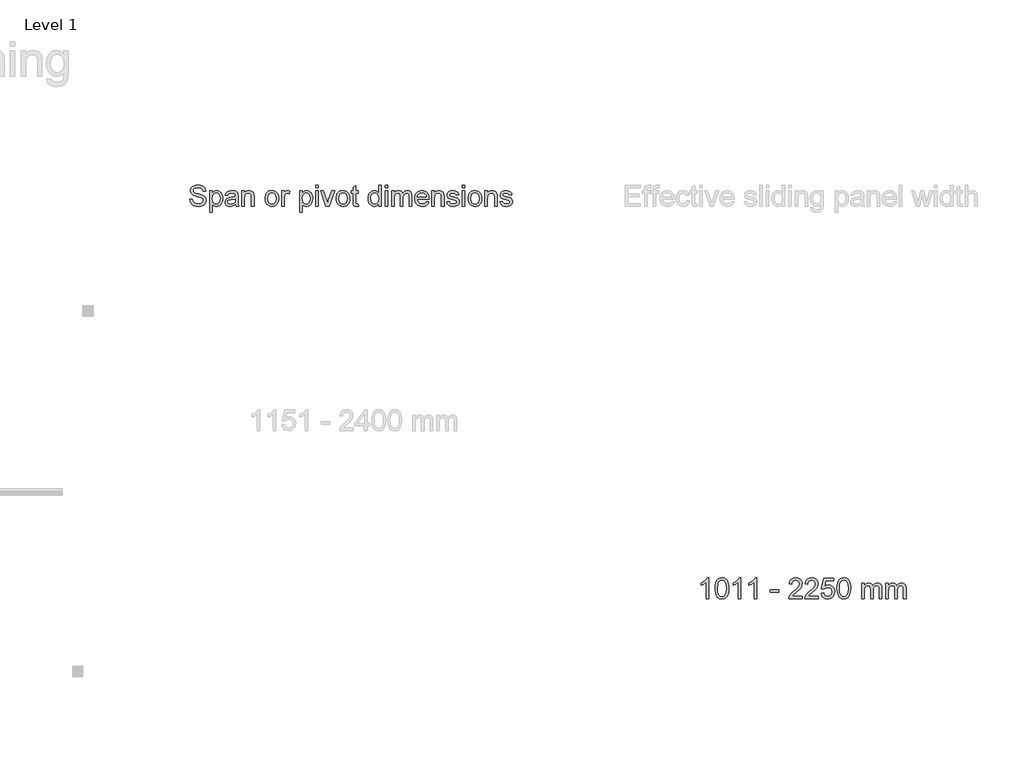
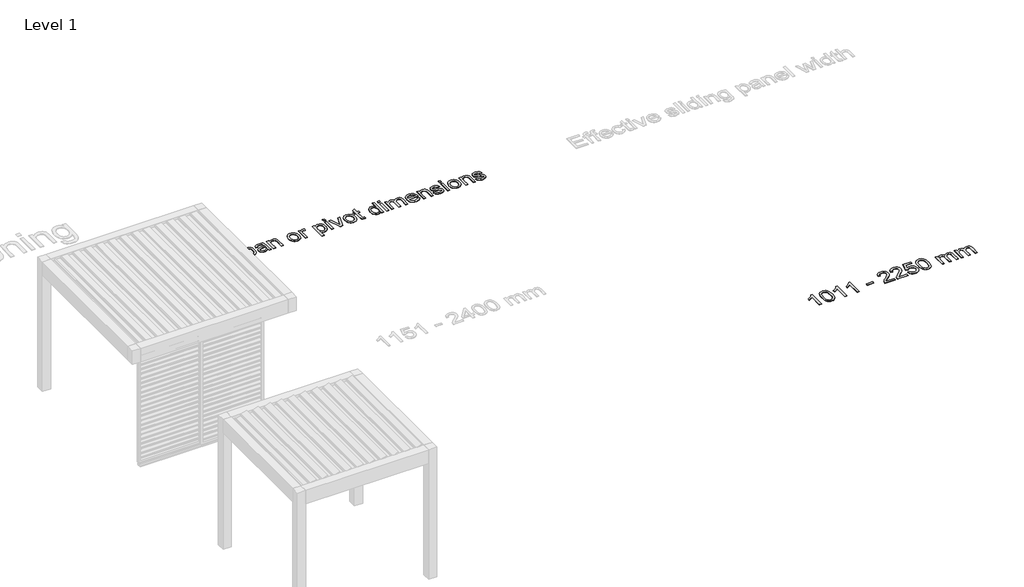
# One storey, part 38 of 69: 2 proxies.
"""IFC4 building model written with IfcOpenShell, lengths in millimetres."""

from ifc_helpers import new_model, si_unit, origin, origin_with_axes, place, context, project, spatial, polyline, outline, extrude, element, save

model = new_model("IFC4")

# Units and contexts
model_context = context("Model", 3, world=origin())
ifc_project = project(units=[si_unit("LENGTHUNIT", "METRE", prefix="MILLI")], contexts=[model_context])

# Site, building, storey
site = spatial("IfcSite", under=ifc_project)
building = spatial("IfcBuilding", under=site)
storey = spatial("IfcBuildingStorey", under=building, Name="Level 1", Elevation=0.0)

# Proxies
placement = place(None, origin())
element("IfcBuildingElementProxy", 1, Name="300mm Arial", ObjectType="300mm Arial", at=placement, inside=storey, context=model_context, shape_type="SweptSolid", body=[
    extrude(outline(polyline([(233342.3854967, -7046.26825), (233380.056613, -7046.26825), (233384.3792265, -7067.1731444), (233392.1967189, -7083.9761545), (233404.392007, -7097.3118768), (233421.8480077, -7107.8149078), (233443.1851634, -7114.6299217), (233467.0239167, -7116.9015931), (233488.0115845, -7115.1817447), (233506.3872902, -7110.0221998), (233521.2773139, -7101.8552195), (233531.807936, -7091.1130652), (233538.071127, -7078.7798213), (233540.1588573, -7065.8395721), (233538.5953588, -7053.2304167), (233533.9048634, -7042.3319126), (233524.3767197, -7033.0336952), (233508.3002765, -7025.2253999), (233453.4490711, -7010.8412139), (233417.4426208, -7001.3222672), (233394.4040108, -6992.2631731), (233375.6512261, -6979.5896384), (233362.361489, -6964.2305651), (233354.4428291, -6946.517047), (233351.8032758, -6926.780178), (233355.0682285, -6904.7164553), (233364.8630866, -6884.1426547), (233380.9303328, -6866.7050481), (233403.0124495, -6854.0499075), (233429.5183473, -6846.3519768), (233458.8569364, -6843.7859998), (233490.6419408, -6846.4715384), (233518.4538196, -6854.5281541), (233541.2992915, -6867.7903), (233558.1850751, -6886.0924293), (233568.872047, -6908.2941077), (233573.1210841, -6933.2549011), (233535.4499678, -6933.2549011), (233528.5337863, -6910.7773112), (233514.1128121, -6894.5537152), (233491.5800399, -6884.7312659), (233460.3284644, -6881.4571161), (233428.3411249, -6884.6944777), (233406.3969639, -6894.4065624), (233393.705035, -6908.6987779), (233389.4743921, -6925.676532), (233392.4726304, -6940.1526885), (233401.4673451, -6951.7961536), (233422.7309245, -6962.2072141), (233462.9772147, -6972.8390037), (233504.511092, -6982.9373645), (233529.6374323, -6991.7481383), (233551.1125437, -7005.4149544), (233566.094538, -7022.2823439), (233574.8961147, -7042.1663657), (233577.8299736, -7064.8830789), (233574.4546563, -7088.1056299), (233564.3287044, -7109.9486234), (233547.8659851, -7128.7473933), (233525.4803657, -7142.8372737), (233498.5606007, -7151.6388505), (233468.4954447, -7154.5727094), (233431.5876835, -7151.4089242), (233401.2098277, -7141.9175687), (233377.0123895, -7126.0618547), (233358.6458809, -7103.804994), (233346.855263, -7076.692091), (233342.3854967, -7046.26825)])), origin_with_axes(), (0.0, 0.0, 1.0), 5.0),
    extrude(outline(polyline([(233629.6277585, -7234.6238315), (233629.6277585, -6928.5460115), (233667.2988749, -6928.5460115), (233667.2988749, -6965.4813638), (233679.5861335, -6947.262008), (233693.3449201, -6934.2481825), (233709.3845751, -6926.4398871), (233728.5144388, -6923.837122), (233753.990267, -6927.4791537), (233776.2655218, -6938.405249), (233794.4021042, -6955.9532202), (233807.461915, -6979.4608797), (233815.3529838, -7007.2175762), (233817.9833401, -7037.5126585), (233815.012693, -7069.7299242), (233806.1007516, -7098.5442815), (233791.5326246, -7122.4933994), (233771.5934205, -7140.114947), (233748.3708695, -7150.9582688), (233723.9527021, -7154.5727094), (233706.6346572, -7152.1538852), (233691.1744163, -7144.8974129), (233677.9398616, -7133.9437265), (233667.2988749, -7120.4332602), (233667.2988749, -7234.6238315), (233629.6277585, -7234.6238315)]), holes=[polyline([(233667.2988749, -7040.9707493), (233671.3731679, -7074.7423164), (233683.5960472, -7098.3603405), (233701.6314621, -7112.2662799), (233723.1433617, -7116.9015931), (233745.0047493, -7112.100733), (233763.5000166, -7097.6981529), (233776.109172, -7073.2156061), (233780.3122238, -7038.1748461), (233776.2103395, -7004.5872199), (233763.9046868, -6980.638102), (233745.8968631, -6966.2907042), (233724.6884661, -6961.5082383), (233703.3972956, -6966.5942069), (233684.6996932, -6981.8521126), (233671.6490794, -7006.803709), (233667.2988749, -7040.9707493)])]), origin_with_axes(), (0.0, 0.0, 1.0), 5.0),
    extrude(outline(polyline([(234001.6300321, -7121.6104826), (233983.6314055, -7137.0431323), (233965.0993499, -7147.1414931), (233945.6108013, -7152.7149053), (233924.7426951, -7154.5727094), (233893.2611933, -7150.1029431), (233870.0386424, -7136.6936444), (233855.7188357, -7116.331376), (233850.9455668, -7091.0027006), (233852.7481886, -7075.3861099), (233858.1560539, -7061.204259), (233866.4977782, -7049.0641531), (233877.1019767, -7039.5727977), (233903.4791158, -7027.2119626), (233936.0734605, -7021.5465799), (233974.5907054, -7015.5868916), (234001.4093029, -7008.5971337), (234001.6300321, -7000.2094242), (233999.036464, -6983.397217), (233991.2557598, -6972.3975454), (233973.8549414, -6964.2305651), (233949.6115179, -6961.5082383), (233927.1707162, -6963.3200571), (233911.4989432, -6968.7555136), (233900.8119713, -6978.8078891), (233893.3255727, -6994.4704651), (233855.6544564, -6989.7615755), (233862.1935588, -6969.1601838), (233871.9516288, -6952.973376), (233885.8391741, -6940.5941469), (233904.7667027, -6931.4154911), (233927.9156773, -6925.7317143), (233954.4675603, -6923.837122), (233979.9341914, -6925.5109851), (234000.1217159, -6930.5325743), (234015.3428334, -6938.0833523), (234025.9102437, -6947.3447815), (234032.9183958, -6958.7951086), (234037.4617384, -6972.9125801), (234039.3011484, -7005.8748069), (234039.3011484, -7052.7429731), (234041.2141347, -7118.18918), (234048.7189274, -7149.8638198), (234011.0478111, -7149.8638198), (234001.6300321, -7121.6104826)]), holes=[polyline([(234001.6300321, -7046.26825), (233940.8559265, -7057.8197446), (233908.4455227, -7063.9265858), (233893.7670311, -7073.8593996), (233888.6166831, -7088.3539502), (233891.4217834, -7099.555957), (233899.837084, -7108.7346128), (233913.6786441, -7114.859848), (233932.7625226, -7116.9015931), (233952.9960323, -7114.6483158), (233970.8750973, -7107.8884842), (233985.3696479, -7097.9280792), (233995.4496145, -7086.0730819), (233999.9193808, -7073.8593996), (234001.4093029, -7056.9368278), (234001.6300321, -7046.26825)])]), origin_with_axes(), (0.0, 0.0, 1.0), 5.0),
    extrude(outline(polyline([(234091.0989333, -7149.8638198), (234091.0989333, -6928.5460115), (234128.7700496, -6928.5460115), (234128.7700496, -6959.4480991), (234141.8574516, -6943.8682966), (234157.5752098, -6932.7398663), (234175.9233243, -6926.0628081), (234196.9017951, -6923.837122), (234215.4706388, -6925.6305467), (234232.475984, -6931.0108209), (234246.657835, -6939.3065599), (234256.7561957, -6949.8463791), (234268.050173, -6977.5478933), (234270.0367357, -7013.9682108), (234270.0367357, -7149.8638198), (234232.3656194, -7149.8638198), (234232.3656194, -7019.0449823), (234228.0246119, -6985.7148736), (234222.0189383, -6975.7912568), (234212.6839327, -6968.093326), (234200.7185708, -6963.1545102), (234186.8218284, -6961.5082383), (234164.7581058, -6965.2054523), (234145.9501388, -6976.2970945), (234138.4338498, -6985.3515901), (234133.0650719, -6997.7262207), (234128.7700496, -7032.435887), (234128.7700496, -7149.8638198), (234091.0989333, -7149.8638198)])), origin_with_axes(), (0.0, 0.0, 1.0), 5.0),
    extrude(outline(polyline([(234430.13898, -7039.2049157), (234432.1761266, -7010.5423097), (234438.2875662, -6985.8436323), (234448.473299, -6965.1088833), (234462.7333248, -6948.3380629), (234477.0899197, -6937.6189012), (234492.9364366, -6929.9623572), (234510.2728756, -6925.3684308), (234529.0992368, -6923.837122), (234549.8822702, -6925.7018239), (234568.6741424, -6931.2959294), (234585.4748532, -6940.6194388), (234600.2844028, -6953.6723518), (234612.3716256, -6970.0132102), (234621.0053562, -6989.2005555), (234626.1855945, -7011.2343877), (234627.9123407, -7036.1147069), (234624.8589201, -7074.1720993), (234615.6986584, -7103.1428064), (234600.6982701, -7124.8386471), (234580.1244695, -7141.0714401), (234555.687908, -7151.1973921), (234529.0992368, -7154.5727094), (234508.0127006, -7152.7149053), (234489.0460845, -7147.1414931), (234472.1993884, -7137.8524727), (234457.4726123, -7124.8478442), (234445.5141482, -7108.3483367), (234436.9723881, -7088.5746794), (234431.8473321, -7065.5268724), (234430.13898, -7039.2049157)]), holes=[polyline([(234467.8100964, -7039.1313393), (234472.169498, -7073.2248032), (234485.2477029, -7097.5142119), (234504.9293897, -7112.0547478), (234529.0992368, -7116.9015931), (234553.1587192, -7112.0271566), (234572.8036178, -7097.4038473), (234585.8818227, -7072.7925418), (234590.2412243, -7037.9541169), (234585.8542316, -7004.8539344), (234572.6932532, -6980.8956194), (234553.0207635, -6966.3550836), (234529.0992368, -6961.5082383), (234504.9293897, -6966.3366895), (234485.2477029, -6980.822043), (234472.169498, -7005.0562695), (234467.8100964, -7039.1313393)])]), origin_with_axes(), (0.0, 0.0, 1.0), 5.0),
    extrude(outline(polyline([(234670.2923465, -7149.8638198), (234670.2923465, -6928.5460115), (234703.2545733, -6928.5460115), (234703.2545733, -6961.2875091), (234715.4314673, -6942.3047981), (234726.6518682, -6931.1211855), (234737.9090572, -6925.6581379), (234750.1963159, -6923.837122), (234768.9582976, -6926.7433898), (234788.014585, -6935.462193), (234775.4330207, -6969.2337602), (234762.1892689, -6963.4396188), (234748.9455171, -6961.5082383), (234737.6975251, -6963.3660424), (234727.6451495, -6968.9394546), (234719.5241545, -6977.8054107), (234714.0703039, -6989.5408463), (234709.4901731, -7010.5836965), (234707.9634628, -7033.539533), (234707.9634628, -7149.8638198), (234670.2923465, -7149.8638198)])), origin_with_axes(), (0.0, 0.0, 1.0), 5.0),
    extrude(outline(polyline([(234929.2812711, -7234.6238315), (234929.2812711, -6928.5460115), (234966.9523874, -6928.5460115), (234966.9523874, -6965.4813638), (234979.239646, -6947.262008), (234992.9984327, -6934.2481825), (235009.0380877, -6926.4398871), (235028.1679514, -6923.837122), (235053.6437796, -6927.4791537), (235075.9190344, -6938.405249), (235094.0556167, -6955.9532202), (235107.1154276, -6979.4608797), (235115.0064964, -7007.2175762), (235117.6368526, -7037.5126585), (235114.6662055, -7069.7299242), (235105.7542642, -7098.5442815), (235091.1861372, -7122.4933994), (235071.246933, -7140.114947), (235048.0243821, -7150.9582688), (235023.6062147, -7154.5727094), (235006.2881697, -7152.1538852), (234990.8279289, -7144.8974129), (234977.5933741, -7133.9437265), (234966.9523874, -7120.4332602), (234966.9523874, -7234.6238315), (234929.2812711, -7234.6238315)]), holes=[polyline([(234966.9523874, -7040.9707493), (234971.0266805, -7074.7423164), (234983.2495598, -7098.3603405), (235001.2849746, -7112.2662799), (235022.7968743, -7116.9015931), (235044.6582618, -7112.100733), (235063.1535291, -7097.6981529), (235075.7626845, -7073.2156061), (235079.9657363, -7038.1748461), (235075.8638521, -7004.5872199), (235063.5581993, -6980.638102), (235045.5503757, -6966.2907042), (235024.3419787, -6961.5082383), (235003.0508082, -6966.5942069), (234984.3532058, -6981.8521126), (234971.302592, -7006.803709), (234966.9523874, -7040.9707493)])]), origin_with_axes(), (0.0, 0.0, 1.0), 5.0),
    extrude(outline(polyline([(235160.0168585, -6886.1660057), (235160.0168585, -6848.4948894), (235197.6879748, -6848.4948894), (235197.6879748, -6886.1660057), (235160.0168585, -6886.1660057)])), origin_with_axes(), (0.0, 0.0, 1.0), 5.0),
    extrude(outline(polyline([(235160.0168585, -7149.8638198), (235160.0168585, -6928.5460115), (235197.6879748, -6928.5460115), (235197.6879748, -7149.8638198), (235160.0168585, -7149.8638198)])), origin_with_axes(), (0.0, 0.0, 1.0), 5.0),
    extrude(outline(polyline([(235308.4940317, -7149.8638198), (235230.6502016, -6928.5460115), (235270.5286098, -6928.5460115), (235317.6910816, -7061.1306826), (235331.8913266, -7105.7179804), (235345.797266, -7063.6322802), (235393.2540434, -6928.5460115), (235433.1324517, -6928.5460115), (235356.2451147, -7149.8638198), (235308.4940317, -7149.8638198)])), origin_with_axes(), (0.0, 0.0, 1.0), 5.0),
    extrude(outline(polyline([(235456.6768994, -7039.2049157), (235458.7140459, -7010.5423097), (235464.8254856, -6985.8436323), (235475.0112183, -6965.1088833), (235489.2712442, -6948.3380629), (235503.627839, -6937.6189012), (235519.474356, -6929.9623572), (235536.810795, -6925.3684308), (235555.6371561, -6923.837122), (235576.4201896, -6925.7018239), (235595.2120617, -6931.2959294), (235612.0127726, -6940.6194388), (235626.8223222, -6953.6723518), (235638.909545, -6970.0132102), (235647.5432755, -6989.2005555), (235652.7235139, -7011.2343877), (235654.45026, -7036.1147069), (235651.3968394, -7074.1720993), (235642.2365778, -7103.1428064), (235627.2361894, -7124.8386471), (235606.6623888, -7141.0714401), (235582.2258273, -7151.1973921), (235555.6371561, -7154.5727094), (235534.55062, -7152.7149053), (235515.5840039, -7147.1414931), (235498.7373078, -7137.8524727), (235484.0105316, -7124.8478442), (235472.0520675, -7108.3483367), (235463.5103075, -7088.5746794), (235458.3852514, -7065.5268724), (235456.6768994, -7039.2049157)]), holes=[polyline([(235494.3480157, -7039.1313393), (235498.7074173, -7073.2248032), (235511.7856223, -7097.5142119), (235531.467309, -7112.0547478), (235555.6371561, -7116.9015931), (235579.6966386, -7112.0271566), (235599.3415371, -7097.4038473), (235612.419742, -7072.7925418), (235616.7791437, -7037.9541169), (235612.3921509, -7004.8539344), (235599.2311725, -6980.8956194), (235579.5586828, -6966.3550836), (235555.6371561, -6961.5082383), (235531.467309, -6966.3366895), (235511.7856223, -6980.822043), (235498.7074173, -7005.0562695), (235494.3480157, -7039.1313393)])]), origin_with_axes(), (0.0, 0.0, 1.0), 5.0),
    extrude(outline(polyline([(235776.881388, -7118.4466974), (235781.5902775, -7150.9674658), (235753.4105167, -7154.5727094), (235735.3291166, -7153.0092109), (235721.8462415, -7148.3187154), (235712.3180978, -7141.0898342), (235706.1008921, -7131.9111785), (235702.6795896, -7116.147435), (235701.5391554, -7089.1632906), (235701.5391554, -6966.2171278), (235673.2858182, -6966.2171278), (235673.2858182, -6928.5460115), (235701.5391554, -6928.5460115), (235701.5391554, -6874.7616638), (235739.2102717, -6852.6151677), (235739.2102717, -6928.5460115), (235776.881388, -6928.5460115), (235776.881388, -6966.2171278), (235739.2102717, -6966.2171278), (235739.2102717, -7088.0596446), (235741.1968345, -7107.483814), (235747.6347694, -7114.3632073), (235760.473851, -7116.9015931), (235776.881388, -7118.4466974)])), origin_with_axes(), (0.0, 0.0, 1.0), 5.0),
    extrude(outline(polyline([(236068.8325394, -7149.8638198), (236068.8325394, -7114.3264191), (236057.5615547, -7131.9341711), (236043.9085342, -7144.5111368), (236027.8734777, -7152.0573162), (236009.4563853, -7154.5727094), (235985.1025973, -7150.9306776), (235962.8089484, -7140.0045824), (235943.936602, -7122.5577787), (235929.8467216, -7099.3536219), (235921.072736, -7071.3302109), (235918.1480741, -7039.4256449), (235920.8428098, -7007.916552), (235928.9270166, -6979.4608797), (235942.3914976, -6955.6773087), (235961.2270558, -6938.1845198), (235984.0081483, -6927.4239714), (236009.3092325, -6923.837122), (236027.7401205, -6926.4030989), (236044.0372929, -6934.1010297), (236057.8512618, -6945.9008447), (236068.8325394, -6960.7724743), (236068.8325394, -6848.4948894), (236106.5036557, -6848.4948894), (236106.5036557, -7149.8638198), (236068.8325394, -7149.8638198)]), holes=[polyline([(235955.8191904, -7039.2784921), (235960.0682275, -7073.3535619), (235972.8153386, -7097.5877883), (235991.3381971, -7112.0731419), (236012.9144761, -7116.9015931), (236034.4815581, -7112.2938711), (236052.535367, -7098.4707051), (236064.7582463, -7075.1745778), (236068.8325394, -7042.1479716), (236064.6846699, -7006.0403538), (236052.2410614, -6981.005984), (236033.7274, -6966.3826747), (236011.3693717, -6961.5082383), (235989.5723635, -6966.1895367), (235971.7116926, -6980.2334319), (235959.792316, -7004.3572937), (235955.8191904, -7039.2784921)])]), origin_with_axes(), (0.0, 0.0, 1.0), 5.0),
    extrude(outline(polyline([(236163.0103301, -6886.1660057), (236163.0103301, -6848.4948894), (236200.6814464, -6848.4948894), (236200.6814464, -6886.1660057), (236163.0103301, -6886.1660057)])), origin_with_axes(), (0.0, 0.0, 1.0), 5.0),
    extrude(outline(polyline([(236163.0103301, -7149.8638198), (236163.0103301, -6928.5460115), (236200.6814464, -6928.5460115), (236200.6814464, -7149.8638198), (236163.0103301, -7149.8638198)])), origin_with_axes(), (0.0, 0.0, 1.0), 5.0),
    extrude(outline(polyline([(236257.1881209, -7149.8638198), (236257.1881209, -6928.5460115), (236294.8592372, -6928.5460115), (236294.8592372, -6964.9663291), (236306.1900027, -6948.2368953), (236320.7581297, -6935.1310992), (236338.0669775, -6926.6606163), (236357.6199056, -6923.837122), (236378.5707852, -6926.7157986), (236395.3645983, -6935.3518284), (236407.9093743, -6949.1749944), (236416.1131428, -6967.6150794), (236429.8443383, -6948.462223), (236445.5069142, -6934.7816113), (236463.1008706, -6926.5732443), (236482.6262075, -6923.837122), (236510.9439241, -6928.3896617), (236531.8856067, -6942.0472808), (236544.8258559, -6965.1778612), (236549.1392723, -6998.149285), (236549.1392723, -7149.8638198), (236511.468156, -7149.8638198), (236511.468156, -7014.3360928), (236507.973277, -6982.8821822), (236503.0620524, -6974.2093642), (236495.3181364, -6967.3943502), (236485.3577314, -6962.9797663), (236473.7970397, -6961.5082383), (236453.388786, -6965.2790287), (236436.7513227, -6976.5914001), (236425.6872717, -6996.2179045), (236421.9992547, -7024.9310943), (236421.9992547, -7149.8638198), (236384.3281384, -7149.8638198), (236384.3281384, -7010.1422381), (236382.1484376, -6988.8418705), (236375.6093351, -6973.6483441), (236364.1038257, -6964.5432648), (236347.0249041, -6961.5082383), (236332.5119594, -6963.5315893), (236319.1394489, -6969.6016422), (236308.102989, -6979.5712443), (236300.5981963, -6993.2932427), (236296.293977, -7012.3311359), (236294.8592372, -7038.2484225), (236294.8592372, -7149.8638198), (236257.1881209, -7149.8638198)])), origin_with_axes(), (0.0, 0.0, 1.0), 5.0),
    extrude(outline(polyline([(236760.5978431, -7083.9393663), (236797.5331954, -7088.6482558), (236784.2250642, -7116.4785288), (236762.9890761, -7137.2822556), (236734.3034775, -7150.2500959), (236698.6465151, -7154.5727094), (236675.2722128, -7152.7080075), (236654.4454934, -7147.1139019), (236636.1663568, -7137.7903926), (236620.4348029, -7124.7374796), (236607.7842608, -7108.3184463), (236598.7481593, -7088.8965762), (236593.3264984, -7066.4718693), (236591.5192781, -7041.0443257), (236593.3448925, -7014.7545586), (236598.8217357, -6991.5825914), (236607.9498077, -6971.5284241), (236620.7291085, -6954.5920568), (236636.4192756, -6941.1367728), (236654.2799465, -6931.5258557), (236674.3111211, -6925.7593054), (236696.5127995, -6923.837122), (236717.9994073, -6925.7547069), (236737.4304744, -6931.5074616), (236754.8060009, -6941.0953861), (236770.1259868, -6954.5184804), (236782.6316753, -6971.4180595), (236791.56431, -6991.4354386), (236796.9238909, -7014.5706176), (236798.7104178, -7040.8235965), (236798.4896886, -7050.9771395), (236629.1903944, -7050.9771395), (236635.7111028, -7079.1752945), (236650.8586439, -7099.9054449), (236672.7200315, -7112.652556), (236699.3822791, -7116.9015931), (236719.4318478, -7114.9334244), (236736.3176314, -7109.0289184), (236750.0396298, -7098.820193), (236760.5978431, -7083.9393663)]), holes=[polyline([(236629.1903944, -7013.3060232), (236761.0393015, -7013.3060232), (236755.9441359, -6993.4036073), (236745.9561397, -6979.1665741), (236723.9935846, -6965.9228222), (236696.3656467, -6961.5082383), (236670.972592, -6965.0307084), (236649.9757271, -6975.5981187), (236635.380009, -6992.070035), (236629.1903944, -7013.3060232)])]), origin_with_axes(), (0.0, 0.0, 1.0), 5.0),
    extrude(outline(polyline([(236836.3815341, -7149.8638198), (236836.3815341, -6928.5460115), (236874.0526504, -6928.5460115), (236874.0526504, -6959.4480991), (236887.1400524, -6943.8682966), (236902.8578106, -6932.7398663), (236921.2059251, -6926.0628081), (236942.1843959, -6923.837122), (236960.7532396, -6925.6305467), (236977.7585848, -6931.0108209), (236991.9404358, -6939.3065599), (237002.0387965, -6949.8463791), (237013.3327738, -6977.5478933), (237015.3193366, -7013.9682108), (237015.3193366, -7149.8638198), (236977.6482202, -7149.8638198), (236977.6482202, -7019.0449823), (236973.3072127, -6985.7148736), (236967.3015391, -6975.7912568), (236957.9665335, -6968.093326), (236946.0011716, -6963.1545102), (236932.1044292, -6961.5082383), (236910.0407066, -6965.2054523), (236891.2327396, -6976.2970945), (236883.7164506, -6985.3515901), (236878.3476727, -6997.7262207), (236874.0526504, -7032.435887), (236874.0526504, -7149.8638198), (236836.3815341, -7149.8638198)])), origin_with_axes(), (0.0, 0.0, 1.0), 5.0),
    extrude(outline(polyline([(237052.9904529, -7083.9393663), (237090.6615692, -7079.2304768), (237096.6028634, -7095.3437081), (237108.0991757, -7107.1895084), (237125.2240826, -7114.4735719), (237148.0511604, -7116.9015931), (237170.6023267, -7114.675907), (237186.4580407, -7107.9988488), (237195.8390316, -7098.3235523), (237198.9660285, -7087.1031515), (237195.8206375, -7077.5014314), (237186.3844643, -7070.1805797), (237147.609702, -7059.4384254), (237090.8822984, -7041.0075375), (237076.5257035, -7031.7461082), (237066.1238401, -7019.4864407), (237059.8054668, -7005.0102842), (237057.6993424, -6989.0993879), (237059.3915996, -6974.5036698), (237064.4683711, -6961.0299917), (237072.4698045, -6949.2117826), (237082.9360473, -6939.5824714), (237106.8851652, -6928.4356469), (237139.2955689, -6923.837122), (237163.8149039, -6925.685729), (237185.1336655, -6931.2315501), (237202.2769665, -6939.9319593), (237214.2699195, -6951.2443306), (237222.2161706, -6966.0055957), (237227.2193658, -6985.052686), (237189.5482495, -6989.7615755), (237184.7933747, -6977.9065782), (237175.3847927, -6968.9762428), (237161.2305329, -6963.3752394), (237142.2386249, -6961.5082383), (237120.6071636, -6963.292466), (237106.1861894, -6968.645149), (237098.0743914, -6976.3706709), (237095.3704587, -6985.2734152), (237099.858619, -6996.2362986), (237113.9117113, -7004.5504317), (237146.3589032, -7012.5702592), (237201.6515671, -7030.3021714), (237216.2564823, -7038.7818514), (237227.3297304, -7050.3885283), (237234.3102912, -7065.1589904), (237236.6371449, -7083.1300259), (237233.905621, -7101.7080667), (237225.7110496, -7119.1824614), (237212.3661302, -7134.1828498), (237194.1835626, -7145.3388713), (237172.2210075, -7152.2642498), (237147.5361256, -7154.5727094), (237109.5523096, -7150.1213372), (237081.8324013, -7136.7672208), (237063.3279369, -7114.6575129), (237052.9904529, -7083.9393663)])), origin_with_axes(), (0.0, 0.0, 1.0), 5.0),
    extrude(outline(polyline([(237279.0171507, -7149.8638198), (237279.0171507, -6928.5460115), (237316.688267, -6928.5460115), (237316.688267, -7149.8638198), (237279.0171507, -7149.8638198)])), origin_with_axes(), (0.0, 0.0, 1.0), 5.0),
    extrude(outline(polyline([(237279.0171507, -6886.1660057), (237279.0171507, -6848.4948894), (237316.688267, -6848.4948894), (237316.688267, -6886.1660057), (237279.0171507, -6886.1660057)])), origin_with_axes(), (0.0, 0.0, 1.0), 5.0),
    extrude(outline(polyline([(237363.7771624, -7039.2049157), (237365.8143089, -7010.5423097), (237371.9257486, -6985.8436323), (237382.1114813, -6965.1088833), (237396.3715072, -6948.3380629), (237410.728102, -6937.6189012), (237426.574619, -6929.9623572), (237443.911058, -6925.3684308), (237462.7374191, -6923.837122), (237483.5204526, -6925.7018239), (237502.3123247, -6931.2959294), (237519.1130356, -6940.6194388), (237533.9225852, -6953.6723518), (237546.009808, -6970.0132102), (237554.6435385, -6989.2005555), (237559.8237769, -7011.2343877), (237561.550523, -7036.1147069), (237558.4971024, -7074.1720993), (237549.3368408, -7103.1428064), (237534.3364524, -7124.8386471), (237513.7626518, -7141.0714401), (237489.3260903, -7151.1973921), (237462.7374191, -7154.5727094), (237441.650883, -7152.7149053), (237422.6842669, -7147.1414931), (237405.8375707, -7137.8524727), (237391.1107946, -7124.8478442), (237379.1523305, -7108.3483367), (237370.6105704, -7088.5746794), (237365.4855144, -7065.5268724), (237363.7771624, -7039.2049157)]), holes=[polyline([(237401.4482787, -7039.1313393), (237405.8076803, -7073.2248032), (237418.8858853, -7097.5142119), (237438.567572, -7112.0547478), (237462.7374191, -7116.9015931), (237486.7969016, -7112.0271566), (237506.4418001, -7097.4038473), (237519.520005, -7072.7925418), (237523.8794067, -7037.9541169), (237519.4924139, -7004.8539344), (237506.3314355, -6980.8956194), (237486.6589458, -6966.3550836), (237462.7374191, -6961.5082383), (237438.567572, -6966.3366895), (237418.8858853, -6980.822043), (237405.8076803, -7005.0562695), (237401.4482787, -7039.1313393)])]), origin_with_axes(), (0.0, 0.0, 1.0), 5.0),
    extrude(outline(polyline([(237603.9305288, -7149.8638198), (237603.9305288, -6928.5460115), (237641.6016451, -6928.5460115), (237641.6016451, -6959.4480991), (237654.6890471, -6943.8682966), (237670.4068054, -6932.7398663), (237688.7549199, -6926.0628081), (237709.7333907, -6923.837122), (237728.3022344, -6925.6305467), (237745.3075796, -6931.0108209), (237759.4894305, -6939.3065599), (237769.5877913, -6949.8463791), (237780.8817685, -6977.5478933), (237782.8683313, -7013.9682108), (237782.8683313, -7149.8638198), (237745.197215, -7149.8638198), (237745.197215, -7019.0449823), (237740.8562074, -6985.7148736), (237734.8505339, -6975.7912568), (237725.5155282, -6968.093326), (237713.5501664, -6963.1545102), (237699.653424, -6961.5082383), (237677.5897013, -6965.2054523), (237658.7817343, -6976.2970945), (237651.2654453, -6985.3515901), (237645.8966674, -6997.7262207), (237641.6016451, -7032.435887), (237641.6016451, -7149.8638198), (237603.9305288, -7149.8638198)])), origin_with_axes(), (0.0, 0.0, 1.0), 5.0),
    extrude(outline(polyline([(237820.5394476, -7083.9393663), (237858.2105639, -7079.2304768), (237864.1518581, -7095.3437081), (237875.6481705, -7107.1895084), (237892.7730774, -7114.4735719), (237915.6001552, -7116.9015931), (237938.1513215, -7114.675907), (237954.0070354, -7107.9988488), (237963.3880263, -7098.3235523), (237966.5150233, -7087.1031515), (237963.3696322, -7077.5014314), (237953.933459, -7070.1805797), (237915.1586968, -7059.4384254), (237858.4312931, -7041.0075375), (237844.0746982, -7031.7461082), (237833.6728348, -7019.4864407), (237827.3544616, -7005.0102842), (237825.2483371, -6989.0993879), (237826.9405943, -6974.5036698), (237832.0173658, -6961.0299917), (237840.0187992, -6949.2117826), (237850.485042, -6939.5824714), (237874.4341599, -6928.4356469), (237906.8445637, -6923.837122), (237931.3638986, -6925.685729), (237952.6826603, -6931.2315501), (237969.8259612, -6939.9319593), (237981.8189143, -6951.2443306), (237989.7651654, -6966.0055957), (237994.7683605, -6985.052686), (237957.0972442, -6989.7615755), (237952.3423694, -6977.9065782), (237942.9337874, -6968.9762428), (237928.7795276, -6963.3752394), (237909.7876196, -6961.5082383), (237888.1561583, -6963.292466), (237873.7351841, -6968.645149), (237865.6233861, -6976.3706709), (237862.9194534, -6985.2734152), (237867.4076138, -6996.2362986), (237881.460706, -7004.5504317), (237913.907898, -7012.5702592), (237969.2005618, -7030.3021714), (237983.8054771, -7038.7818514), (237994.8787251, -7050.3885283), (238001.859286, -7065.1589904), (238004.1861396, -7083.1300259), (238001.4546158, -7101.7080667), (237993.2600443, -7119.1824614), (237979.915125, -7134.1828498), (237961.7325573, -7145.3388713), (237939.7700022, -7152.2642498), (237915.0851204, -7154.5727094), (237877.1013044, -7150.1213372), (237849.381396, -7136.7672208), (237830.8769317, -7114.6575129), (237820.5394476, -7083.9393663)])), origin_with_axes(), (0.0, 0.0, 1.0), 5.0),
])
element("IfcBuildingElementProxy", 2, Name="300mm Arial", ObjectType="300mm Arial", at=placement, inside=storey, context=model_context, shape_type="SweptSolid", body=[
    extrude(outline(polyline([(240841.0703661, -12819.8212305), (240803.3992498, -12819.8212305), (240803.3992498, -12584.9653647), (240767.7146963, -12610.3860106), (240728.0570172, -12629.4055098), (240728.0570172, -12593.7945326), (240757.6439267, -12577.6996953), (240783.2761047, -12558.5514375), (240803.4820233, -12538.1891691), (240816.7901544, -12518.4523), (240841.0703661, -12518.4523), (240841.0703661, -12819.8212305)])), origin_with_axes(), (0.0, 0.0, 1.0), 5.0),
    extrude(outline(polyline([(240930.5392674, -12671.5647864), (240933.3075794, -12623.3262598), (240941.6125154, -12584.8550002), (240955.371302, -12555.5623963), (240974.5011658, -12534.859837), (240999.1400624, -12522.5541843), (241029.4259477, -12518.4523), (241052.6393016, -12520.8803212), (241073.4246343, -12528.1643847), (241090.8070586, -12540.019382), (241103.8116871, -12556.1602045), (241113.6341364, -12576.4488966), (241121.4700229, -12600.7475023), (241126.6019767, -12631.6036047), (241128.312628, -12671.5647864), (241125.5719071, -12719.5274015), (241117.3497445, -12757.9066907), (241103.6737313, -12787.2268857), (241084.5714587, -12808.0122184), (241059.8773798, -12820.4006446), (241029.4259477, -12824.53012), (241008.6774031, -12822.7366953), (240990.2833034, -12817.3564211), (240974.2436484, -12808.3892975), (240960.5584382, -12795.8353244), (240947.4250509, -12773.1416038), (240938.0440601, -12744.865274), (240932.4154655, -12711.0063348), (240930.5392674, -12671.5647864)]), holes=[polyline([(240968.2103837, -12671.49121), (240972.6249676, -12730.7478024), (240978.1431975, -12751.0158011), (240985.8687194, -12765.0436014), (241005.5871944, -12781.4051531), (241029.4259477, -12786.8590037), (241053.2647009, -12781.386759), (241072.9831759, -12764.970025), (241080.7086978, -12750.919232), (241086.2269277, -12730.6558319), (241090.6415117, -12671.49121), (241086.3740805, -12613.5681899), (241081.0397916, -12593.3668698), (241073.5717871, -12579.0056764), (241053.8901003, -12561.8439814), (241028.9844893, -12556.1234163), (241005.4032534, -12561.1633997), (240986.4573306, -12576.2833497), (240978.4742913, -12591.9183345), (240972.7721204, -12612.9979728), (240968.2103837, -12671.49121)])]), origin_with_axes(), (0.0, 0.0, 1.0), 5.0),
    extrude(outline(polyline([(241302.5415409, -12819.8212305), (241264.8704246, -12819.8212305), (241264.8704246, -12584.9653647), (241229.185871, -12610.3860106), (241189.528192, -12629.4055098), (241189.528192, -12593.7945326), (241219.1151014, -12577.6996953), (241244.7472794, -12558.5514375), (241264.953198, -12538.1891691), (241278.2613292, -12518.4523), (241302.5415409, -12518.4523), (241302.5415409, -12819.8212305)])), origin_with_axes(), (0.0, 0.0, 1.0), 5.0),
    extrude(outline(polyline([(241533.2771283, -12819.8212305), (241495.6060119, -12819.8212305), (241495.6060119, -12584.9653647), (241459.9214584, -12610.3860106), (241420.2637793, -12629.4055098), (241420.2637793, -12593.7945326), (241449.8506888, -12577.6996953), (241475.4828668, -12558.5514375), (241495.6887854, -12538.1891691), (241508.9969166, -12518.4523), (241533.2771283, -12518.4523), (241533.2771283, -12819.8212305)])), origin_with_axes(), (0.0, 0.0, 1.0), 5.0),
    extrude(outline(polyline([(241731.0504889, -12730.3523292), (241731.0504889, -12692.6812129), (241848.7727273, -12692.6812129), (241848.7727273, -12730.3523292), (241731.0504889, -12730.3523292)])), origin_with_axes(), (0.0, 0.0, 1.0), 5.0),
    extrude(outline(polyline([(242192.5216636, -12782.1501142), (242192.5216636, -12819.8212305), (241994.748303, -12819.8212305), (241998.795005, -12793.8487616), (242008.0840253, -12773.5508725), (242021.6772651, -12753.8599887), (242041.3405577, -12733.2494), (242068.8397368, -12710.1923959), (242109.4906973, -12674.0847781), (242133.8812736, -12647.4317275), (242146.0765617, -12625.8002662), (242150.1416578, -12604.7574161), (242146.306488, -12585.8942668), (242134.8009786, -12570.2132967), (242117.1150516, -12559.6458864), (242094.7386293, -12556.1234163), (242071.2401669, -12559.563113), (242052.9840228, -12569.8822029), (242041.2026019, -12586.2713458), (242037.1283088, -12607.9212012), (241999.4571925, -12603.2123117), (242008.5898631, -12566.7736001), (242017.1362217, -12552.2376628), (242028.3359292, -12540.1573377), (242041.9314681, -12530.6613837), (242057.6653212, -12523.8785594), (242095.5479697, -12518.4523), (242115.7377934, -12519.9606162), (242133.7065296, -12524.4855647), (242149.4541783, -12532.0271456), (242162.9807394, -12542.5853589), (242173.8447546, -12555.3784553), (242181.6047654, -12569.6246856), (242186.2607719, -12585.3240497), (242187.8127741, -12602.4765477), (242186.138911, -12620.4935684), (242181.1173218, -12638.1978895), (242172.2053804, -12656.2057131), (242158.8604611, -12675.1332418), (242137.5876847, -12697.7303933), (242104.8921724, -12726.7470857), (242061.5556733, -12762.9834622), (242044.5595252, -12782.1501142), (242192.5216636, -12782.1501142)])), origin_with_axes(), (0.0, 0.0, 1.0), 5.0),
    extrude(outline(polyline([(242423.257251, -12782.1501142), (242423.257251, -12819.8212305), (242225.4838904, -12819.8212305), (242229.5305923, -12793.8487616), (242238.8196127, -12773.5508725), (242252.4128524, -12753.8599887), (242272.0761451, -12733.2494), (242299.5753242, -12710.1923959), (242340.2262847, -12674.0847781), (242364.616861, -12647.4317275), (242376.8121491, -12625.8002662), (242380.8772451, -12604.7574161), (242377.0420753, -12585.8942668), (242365.5365659, -12570.2132967), (242347.850639, -12559.6458864), (242325.4742167, -12556.1234163), (242301.9757542, -12559.563113), (242283.7196102, -12569.8822029), (242271.9381893, -12586.2713458), (242267.8638962, -12607.9212012), (242230.1927799, -12603.2123117), (242239.3254504, -12566.7736001), (242247.871809, -12552.2376628), (242259.0715165, -12540.1573377), (242272.6670555, -12530.6613837), (242288.4009086, -12523.8785594), (242326.2835571, -12518.4523), (242346.4733808, -12519.9606162), (242364.442117, -12524.4855647), (242380.1897657, -12532.0271456), (242393.7163268, -12542.5853589), (242404.5803419, -12555.3784553), (242412.3403528, -12569.6246856), (242416.9963593, -12585.3240497), (242418.5483614, -12602.4765477), (242416.8744984, -12620.4935684), (242411.8529091, -12638.1978895), (242402.9409678, -12656.2057131), (242389.5960484, -12675.1332418), (242368.3232721, -12697.7303933), (242335.6277597, -12726.7470857), (242292.2912607, -12762.9834622), (242275.2951125, -12782.1501142), (242423.257251, -12782.1501142)])), origin_with_axes(), (0.0, 0.0, 1.0), 5.0),
    extrude(outline(polyline([(242460.9283673, -12739.7701083), (242498.5994836, -12735.0612188), (242505.5156651, -12757.6767644), (242517.5821945, -12773.8727693), (242534.7438896, -12783.6124451), (242556.945568, -12786.8590037), (242583.9481065, -12782.3432522), (242604.1816162, -12768.7959977), (242616.8183627, -12747.7807388), (242621.0306116, -12720.8609738), (242617.0850772, -12695.5139043), (242605.248474, -12676.1265232), (242585.4288315, -12663.8208704), (242557.5341792, -12659.7189862), (242539.2596411, -12661.356061), (242524.4615879, -12666.2672857), (242503.3083731, -12683.2634339), (242465.6372568, -12678.5545443), (242498.5994836, -12523.1611896), (242644.5750593, -12523.1611896), (242644.5750593, -12560.8323059), (242529.0601128, -12560.8323059), (242512.9468814, -12643.826484), (242539.8574494, -12627.4925234), (242568.0556043, -12622.0478699), (242586.4014195, -12623.7355285), (242603.2527142, -12628.7985045), (242618.6094882, -12637.2367977), (242632.4717416, -12649.0504083), (242643.9473606, -12663.5173678), (242652.1442313, -12679.9157077), (242657.0623538, -12698.2454281), (242658.7017279, -12718.506529), (242652.7972219, -12756.1776453), (242645.4165893, -12772.9714584), (242635.0837038, -12788.4041081), (242619.4303249, -12804.2092383), (242601.1649839, -12815.498617), (242580.2876806, -12822.2722443), (242556.7984152, -12824.53012), (242519.7986836, -12818.7267815), (242504.1200128, -12811.4726084), (242490.3221387, -12801.3167661), (242478.8419212, -12788.7650923), (242470.1162201, -12774.3234247), (242460.9283673, -12739.7701083)])), origin_with_axes(), (0.0, 0.0, 1.0), 5.0),
    extrude(outline(polyline([(242691.6639547, -12671.5647864), (242694.4322667, -12623.3262598), (242702.7372027, -12584.8550002), (242716.4959893, -12555.5623963), (242735.6258531, -12534.859837), (242760.2647497, -12522.5541843), (242790.550635, -12518.4523), (242813.7639889, -12520.8803212), (242834.5493216, -12528.1643847), (242851.9317459, -12540.019382), (242864.9363744, -12556.1602045), (242874.7588237, -12576.4488966), (242882.5947102, -12600.7475023), (242887.726664, -12631.6036047), (242889.4373153, -12671.5647864), (242886.6965944, -12719.5274015), (242878.4744318, -12757.9066907), (242864.7984186, -12787.2268857), (242845.696146, -12808.0122184), (242821.0020671, -12820.4006446), (242790.550635, -12824.53012), (242769.8020904, -12822.7366953), (242751.4079907, -12817.3564211), (242735.3683357, -12808.3892975), (242721.6831255, -12795.8353244), (242708.5497382, -12773.1416038), (242699.1687474, -12744.865274), (242693.5401528, -12711.0063348), (242691.6639547, -12671.5647864)]), holes=[polyline([(242729.335071, -12671.49121), (242733.7496549, -12730.7478024), (242739.2678848, -12751.0158011), (242746.9934067, -12765.0436014), (242766.7118817, -12781.4051531), (242790.550635, -12786.8590037), (242814.3893883, -12781.386759), (242834.1078632, -12764.970025), (242841.8333851, -12750.919232), (242847.351615, -12730.6558319), (242851.766199, -12671.49121), (242847.4987678, -12613.5681899), (242842.1644789, -12593.3668698), (242834.6964744, -12579.0056764), (242815.0147876, -12561.8439814), (242790.1091766, -12556.1234163), (242766.5279407, -12561.1633997), (242747.5820179, -12576.2833497), (242739.5989786, -12591.9183345), (242733.8968077, -12612.9979728), (242729.335071, -12671.49121)])]), origin_with_axes(), (0.0, 0.0, 1.0), 5.0),
    extrude(outline(polyline([(243049.5395596, -12819.8212305), (243049.5395596, -12598.5034222), (243087.2106759, -12598.5034222), (243087.2106759, -12634.9237397), (243098.5414413, -12618.194306), (243113.1095683, -12605.0885099), (243130.4184162, -12596.6180269), (243149.9713443, -12593.7945326), (243170.9222239, -12596.6732092), (243187.716037, -12605.3092391), (243200.260813, -12619.1324051), (243208.4645815, -12637.5724901), (243222.195777, -12618.4196337), (243237.8583529, -12604.739022), (243255.4523093, -12596.530655), (243274.9776462, -12593.7945326), (243303.2953628, -12598.3470723), (243324.2370454, -12612.0046914), (243337.1772946, -12635.1352718), (243341.4907109, -12668.1066957), (243341.4907109, -12819.8212305), (243303.8195946, -12819.8212305), (243303.8195946, -12684.2935034), (243300.3247157, -12652.8395929), (243295.4134911, -12644.1667748), (243287.6695751, -12637.3517609), (243277.70917, -12632.9371769), (243266.1484783, -12631.4656489), (243245.7402247, -12635.2364394), (243229.1027614, -12646.5488107), (243218.0387104, -12666.1753152), (243214.3506934, -12694.8885049), (243214.3506934, -12819.8212305), (243176.6795771, -12819.8212305), (243176.6795771, -12680.0996487), (243174.4998763, -12658.7992812), (243167.9607738, -12643.6057548), (243156.4552644, -12634.5006754), (243139.3763428, -12631.4656489), (243124.8633981, -12633.4889999), (243111.4908876, -12639.5590528), (243100.4544277, -12649.5286549), (243092.949635, -12663.2506533), (243088.6454157, -12682.2885466), (243087.2106759, -12708.2058331), (243087.2106759, -12819.8212305), (243049.5395596, -12819.8212305)])), origin_with_axes(), (0.0, 0.0, 1.0), 5.0),
    extrude(outline(polyline([(243397.9973854, -12819.8212305), (243397.9973854, -12598.5034222), (243435.6685017, -12598.5034222), (243435.6685017, -12634.9237397), (243446.9992672, -12618.194306), (243461.5673942, -12605.0885099), (243478.876242, -12596.6180269), (243498.4291701, -12593.7945326), (243519.3800497, -12596.6732092), (243536.1738628, -12605.3092391), (243548.7186388, -12619.1324051), (243556.9224073, -12637.5724901), (243570.6536028, -12618.4196337), (243586.3161787, -12604.739022), (243603.9101352, -12596.530655), (243623.4354721, -12593.7945326), (243651.7531886, -12598.3470723), (243672.6948712, -12612.0046914), (243685.6351204, -12635.1352718), (243689.9485368, -12668.1066957), (243689.9485368, -12819.8212305), (243652.2774205, -12819.8212305), (243652.2774205, -12684.2935034), (243648.7825415, -12652.8395929), (243643.8713169, -12644.1667748), (243636.1274009, -12637.3517609), (243626.1669959, -12632.9371769), (243614.6063042, -12631.4656489), (243594.1980505, -12635.2364394), (243577.5605873, -12646.5488107), (243566.4965362, -12666.1753152), (243562.8085192, -12694.8885049), (243562.8085192, -12819.8212305), (243525.1374029, -12819.8212305), (243525.1374029, -12680.0996487), (243522.9577021, -12658.7992812), (243516.4185997, -12643.6057548), (243504.9130903, -12634.5006754), (243487.8341686, -12631.4656489), (243473.3212239, -12633.4889999), (243459.9487134, -12639.5590528), (243448.9122535, -12649.5286549), (243441.4074608, -12663.2506533), (243437.1032415, -12682.2885466), (243435.6685017, -12708.2058331), (243435.6685017, -12819.8212305), (243397.9973854, -12819.8212305)])), origin_with_axes(), (0.0, 0.0, 1.0), 5.0),
])

save(model, "model.ifc")
